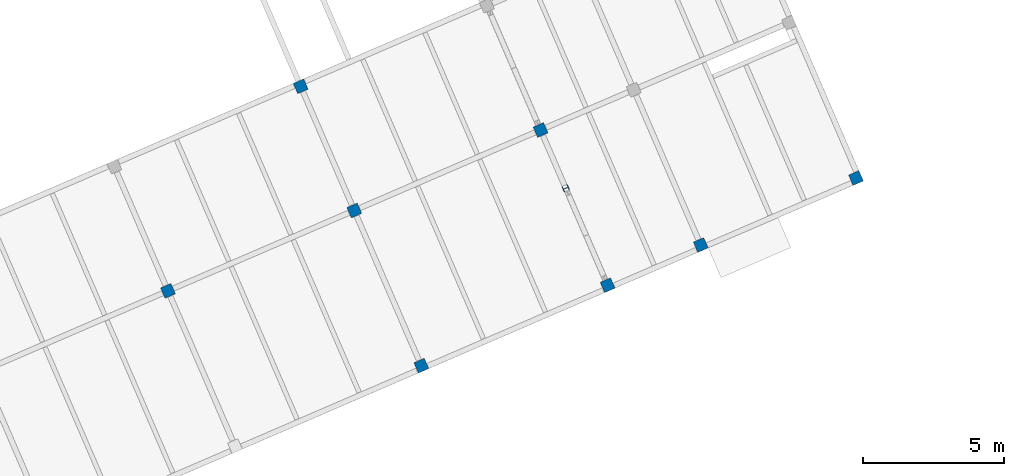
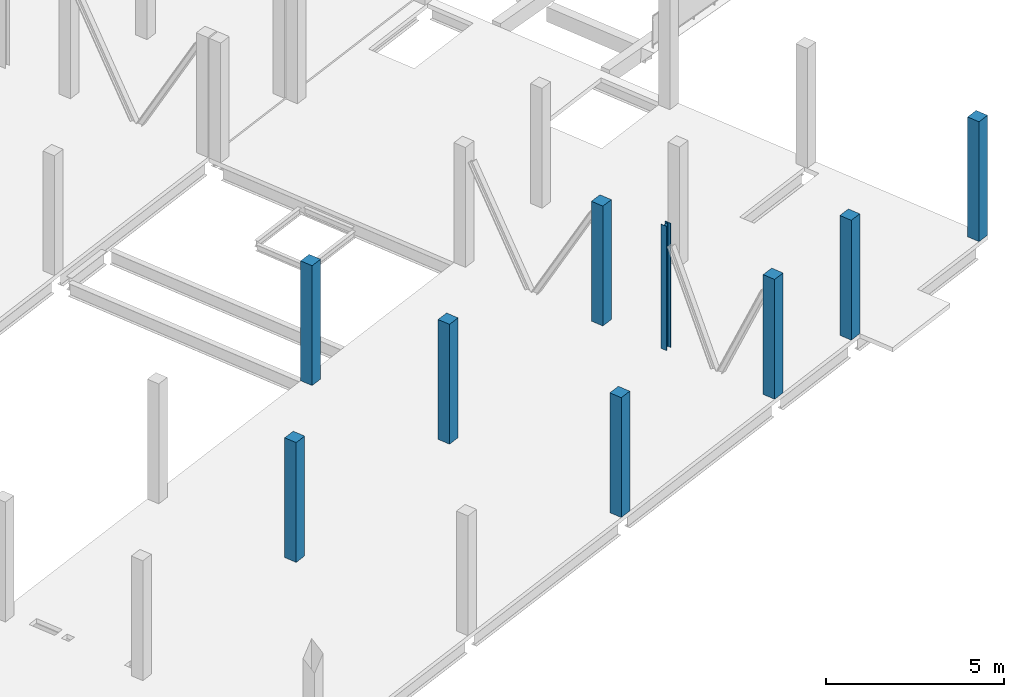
# One storey, part 3 of 24: 9 columns.
"""IFC4 building model written with IfcOpenShell, lengths in metres."""

from ifc_helpers import new_model, entity, si_unit, converted_unit, derived_unit, direction, frame, origin, place, context, subcontext, project, spatial, line, arc, indexed_curve, outline, extrude, source, transform, mapped, material, type_object, type_shapes, element, save


model = new_model("IFC4")

# Units and contexts
model_context = context("Model", 3, precision=1e-05, world=origin(), true_north=direction((6.12323399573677e-17, 1.0)))
body_context = subcontext(model_context, "Body", "Model", "MODEL_VIEW")
ifc_project = project(units=[si_unit("LENGTHUNIT", "METRE"), si_unit("AREAUNIT", "SQUARE_METRE"), si_unit("VOLUMEUNIT", "CUBIC_METRE"), converted_unit("PLANEANGLEUNIT", "DEGREE", entity("IfcPlaneAngleMeasure", 0.0174532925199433), si_unit("PLANEANGLEUNIT", "RADIAN"), dimensions=[0, 0, 0, 0, 0, 0, 0]), si_unit("MASSUNIT", "GRAM", prefix="KILO"), derived_unit("MOMENTOFINERTIAUNIT", [(si_unit("LENGTHUNIT", "METRE"), 4)]), derived_unit("LINEARFORCEUNIT", [(si_unit("MASSUNIT", "GRAM", prefix="KILO"), 1), (si_unit("TIMEUNIT", "SECOND"), -2)]), derived_unit("WARPINGCONSTANTUNIT", [(si_unit("LENGTHUNIT", "METRE"), 6)]), derived_unit("THERMALTRANSMITTANCEUNIT", [(si_unit("MASSUNIT", "GRAM", prefix="KILO"), 1), (si_unit("THERMODYNAMICTEMPERATUREUNIT", "KELVIN"), -1), (si_unit("TIMEUNIT", "SECOND"), -3)]), derived_unit("USERDEFINED", [(si_unit("MASSUNIT", "GRAM", prefix="KILO"), 1), (si_unit("TIMEUNIT", "SECOND"), -2), (si_unit("THERMODYNAMICTEMPERATUREUNIT", "KELVIN"), -1)]), derived_unit("THERMALRESISTANCEUNIT", [(si_unit("MASSUNIT", "GRAM", prefix="KILO"), -1), (si_unit("TIMEUNIT", "SECOND"), 3), (si_unit("THERMODYNAMICTEMPERATUREUNIT", "KELVIN"), 1)])], contexts=[model_context])

# Site, building, storey
site_placement = place(None, origin())
site = spatial("IfcSite", under=ifc_project, at=site_placement, Name="Default", CompositionType="ELEMENT")
building_placement = place(site_placement, frame((12.6613425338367, -82.5732315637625, 317.15), z_axis=(0.0, 0.0, 1.0), x_axis=(-0.396377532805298, 0.918087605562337, 0.0)))
building = spatial("IfcBuilding", under=site, at=building_placement, Name="CESFAM Coyhaique", CompositionType="ELEMENT")
storey_placement = place(building_placement, frame((0.0, 0.0, 4.20000000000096)))
storey = spatial("IfcBuildingStorey", under=building, at=storey_placement, Name="Nivel 2", CompositionType="ELEMENT", Elevation=4.20000000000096)

# Columns
ifc_material_1 = material(Name="HA")
column_type_1 = type_object("IfcColumnType", Name="M_Concrete-Square-Column:400 x 400mm", PredefinedType="COLUMN", material=ifc_material_1)
shared_shape_1 = source(origin(), body_context, "Body", "SweptSolid", [
    extrude(outline(indexed_curve([(-0.2, -0.2), (0.2, -0.2), (0.2, 0.2), (-0.2, 0.2), (-0.2, -0.2)], self_intersect=False)), frame((4.16885341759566, -4.39714959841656, 4.20000000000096), z_axis=(0.0, 0.0, 1.0), x_axis=(-1.0, 0.0, 0.0)), (0.0, 0.0, 1.0), 4.10000000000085),
])
type_shapes(column_type_1, [shared_shape_1])
column_1_placement = place(storey_placement, frame((0.0, 0.0, -4.20000000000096)))
element("IfcColumn", 1, at=column_1_placement, inside=storey, type_object=column_type_1, Name="M_Concrete-Square-Column:400 x 400mm", ObjectType="M_Concrete-Square-Column:400 x 400mm", PredefinedType="COLUMN", context=body_context, shape_type="MappedRepresentation", body=[
    mapped(shared_shape_1, transform((0.0, 0.0, 0.0), scale=1.0)),
])
column_type_2 = type_object("IfcColumnType", Name="M_Concrete-Square-Column:400 x 400mm", PredefinedType="COLUMN", material=ifc_material_1)
shared_shape_2 = source(origin(), body_context, "Body", "SweptSolid", [
    extrude(outline(indexed_curve([(-0.2, -0.2), (0.2, -0.2), (0.2, 0.2), (-0.2, 0.2), (-0.2, -0.2)], self_intersect=False)), frame((4.16885341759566, -11.5971495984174, 4.20000000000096), z_axis=(0.0, 0.0, 1.0), x_axis=(-1.0, 0.0, 0.0)), (0.0, 0.0, 1.0), 4.10000000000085),
])
type_shapes(column_type_2, [shared_shape_2])
column_2_placement = place(storey_placement, frame((0.0, 0.0, -4.20000000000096)))
element("IfcColumn", 2, at=column_2_placement, inside=storey, type_object=column_type_2, Name="M_Concrete-Square-Column:400 x 400mm", ObjectType="M_Concrete-Square-Column:400 x 400mm", PredefinedType="COLUMN", context=body_context, shape_type="MappedRepresentation", body=[
    mapped(shared_shape_2, transform((0.0, 0.0, 0.0), scale=1.0)),
])
column_type_3 = type_object("IfcColumnType", Name="M_Concrete-Square-Column:400 x 400mm", PredefinedType="COLUMN", material=ifc_material_1)
shared_shape_3 = source(origin(), body_context, "Body", "SweptSolid", [
    extrude(outline(indexed_curve([(-0.2, -0.199999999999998), (0.2, -0.199999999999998), (0.2, 0.200000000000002), (-0.2, 0.200000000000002), (-0.2, -0.199999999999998)], self_intersect=False)), frame((4.16885341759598, -21.1971495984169, 4.20000000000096), z_axis=(0.0, 0.0, 1.0), x_axis=(-1.0, 0.0, 0.0)), (0.0, 0.0, 1.0), 4.10000000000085),
])
type_shapes(column_type_3, [shared_shape_3])
column_3_placement = place(storey_placement, frame((0.0, 0.0, -4.20000000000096)))
element("IfcColumn", 3, at=column_3_placement, inside=storey, type_object=column_type_3, Name="M_Concrete-Square-Column:400 x 400mm", ObjectType="M_Concrete-Square-Column:400 x 400mm", PredefinedType="COLUMN", context=body_context, shape_type="MappedRepresentation", body=[
    mapped(shared_shape_3, transform((0.0, 0.0, 0.0), scale=1.0)),
])
column_type_4 = type_object("IfcColumnType", Name="M_Concrete-Square-Column:400 x 400mm", PredefinedType="COLUMN", material=ifc_material_1)
shared_shape_4 = source(origin(), body_context, "Body", "SweptSolid", [
    extrude(outline(indexed_curve([(-0.2, -0.2), (0.2, -0.2), (0.2, 0.2), (-0.2, 0.2), (-0.2, -0.2)], self_intersect=False)), frame((10.1688534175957, 2.8028504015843, 4.20000000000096), z_axis=(0.0, 0.0, 1.0), x_axis=(-1.0, 0.0, 0.0)), (0.0, 0.0, 1.0), 4.10000000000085),
])
type_shapes(column_type_4, [shared_shape_4])
column_4_placement = place(storey_placement, frame((0.0, 0.0, -4.20000000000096)))
element("IfcColumn", 4, at=column_4_placement, inside=storey, type_object=column_type_4, Name="M_Concrete-Square-Column:400 x 400mm", ObjectType="M_Concrete-Square-Column:400 x 400mm", PredefinedType="COLUMN", context=body_context, shape_type="MappedRepresentation", body=[
    mapped(shared_shape_4, transform((0.0, 0.0, 0.0), scale=1.0)),
])
column_type_5 = type_object("IfcColumnType", Name="M_Concrete-Square-Column:400 x 400mm", PredefinedType="COLUMN", material=ifc_material_1)
shared_shape_5 = source(origin(), body_context, "Body", "SweptSolid", [
    extrude(outline(indexed_curve([(-0.2, -0.2), (0.2, -0.2), (0.2, 0.2), (-0.2, 0.2), (-0.2, -0.2)], self_intersect=False)), frame((10.1688534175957, -4.39714959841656, 4.20000000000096), z_axis=(0.0, 0.0, 1.0), x_axis=(-1.0, 0.0, 0.0)), (0.0, 0.0, 1.0), 4.10000000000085),
])
type_shapes(column_type_5, [shared_shape_5])
column_5_placement = place(storey_placement, frame((0.0, 0.0, -4.20000000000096)))
element("IfcColumn", 5, at=column_5_placement, inside=storey, type_object=column_type_5, Name="M_Concrete-Square-Column:400 x 400mm", ObjectType="M_Concrete-Square-Column:400 x 400mm", PredefinedType="COLUMN", context=body_context, shape_type="MappedRepresentation", body=[
    mapped(shared_shape_5, transform((0.0, 0.0, 0.0), scale=1.0)),
])
column_type_6 = type_object("IfcColumnType", Name="M_Concrete-Square-Column:400 x 400mm", PredefinedType="COLUMN", material=ifc_material_1)
shared_shape_6 = source(origin(), body_context, "Body", "SweptSolid", [
    extrude(outline(indexed_curve([(-0.2, -0.2), (0.2, -0.2), (0.2, 0.2), (-0.2, 0.2), (-0.2, -0.2)], self_intersect=False)), frame((10.1688534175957, -11.5971495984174, 4.20000000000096), z_axis=(0.0, 0.0, 1.0), x_axis=(-1.0, 0.0, 0.0)), (0.0, 0.0, 1.0), 4.10000000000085),
])
type_shapes(column_type_6, [shared_shape_6])
column_6_placement = place(storey_placement, frame((0.0, 0.0, -4.20000000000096)))
element("IfcColumn", 6, at=column_6_placement, inside=storey, type_object=column_type_6, Name="M_Concrete-Square-Column:400 x 400mm", ObjectType="M_Concrete-Square-Column:400 x 400mm", PredefinedType="COLUMN", context=body_context, shape_type="MappedRepresentation", body=[
    mapped(shared_shape_6, transform((0.0, 0.0, 0.0), scale=1.0)),
])
column_type_7 = type_object("IfcColumnType", Name="M_Concrete-Square-Column:400 x 400mm", PredefinedType="COLUMN", material=ifc_material_1)
shared_shape_7 = source(origin(), body_context, "Body", "SweptSolid", [
    extrude(outline(indexed_curve([(-0.2, -0.2), (0.2, -0.2), (0.2, 0.2), (-0.2, 0.2), (-0.2, -0.2)], self_intersect=False)), frame((14.9688534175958, -4.39714959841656, 4.20000000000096), z_axis=(0.0, 0.0, 1.0), x_axis=(-1.0, 0.0, 0.0)), (0.0, 0.0, 1.0), 4.10000000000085),
])
type_shapes(column_type_7, [shared_shape_7])
column_7_placement = place(storey_placement, frame((0.0, 0.0, -4.20000000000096)))
element("IfcColumn", 7, at=column_7_placement, inside=storey, type_object=column_type_7, Name="M_Concrete-Square-Column:400 x 400mm", ObjectType="M_Concrete-Square-Column:400 x 400mm", PredefinedType="COLUMN", context=body_context, shape_type="MappedRepresentation", body=[
    mapped(shared_shape_7, transform((0.0, 0.0, 0.0), scale=1.0)),
])
column_type_8 = type_object("IfcColumnType", Name="M_Concrete-Square-Column:400 x 400mm", PredefinedType="COLUMN", material=ifc_material_1)
shared_shape_8 = source(origin(), body_context, "Body", "SweptSolid", [
    extrude(outline(indexed_curve([(-0.2, -0.2), (0.2, -0.2), (0.2, 0.2), (-0.2, 0.2), (-0.2, -0.2)], self_intersect=False)), frame((4.16885341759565, -15.1971495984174, 4.20000000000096), z_axis=(0.0, 0.0, 1.0), x_axis=(-1.0, 0.0, 0.0)), (0.0, 0.0, 1.0), 4.10000000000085),
])
type_shapes(column_type_8, [shared_shape_8])
column_8_placement = place(storey_placement, frame((0.0, 0.0, -4.20000000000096)))
element("IfcColumn", 8, at=column_8_placement, inside=storey, type_object=column_type_8, Name="M_Concrete-Square-Column:400 x 400mm", ObjectType="M_Concrete-Square-Column:400 x 400mm", PredefinedType="COLUMN", context=body_context, shape_type="MappedRepresentation", body=[
    mapped(shared_shape_8, transform((0.0, 0.0, 0.0), scale=1.0)),
])
ifc_material_2 = material(Name="Steel, 45-345", Category="Metal")
column_type_9 = type_object("IfcColumnType", Name="M_W Shapes-Column:HEA 200", PredefinedType="COLUMN", material=ifc_material_2)
shared_shape_9 = source(origin(), body_context, "Body", "SweptSolid", [
    extrude(outline(indexed_curve([(-0.0999999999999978, -0.0999999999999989), (0.100000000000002, -0.0999999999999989), (0.100000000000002, -0.0889999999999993), (0.0163850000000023, -0.0889999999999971), (0.00740474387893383, -0.0852802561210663), (0.00368500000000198, -0.0762999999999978), (0.00368500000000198, 0.0763000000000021), (0.00740474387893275, 0.0852802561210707), (0.0163850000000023, 0.0890000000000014), (0.100000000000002, 0.0890000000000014), (0.100000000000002, 0.100000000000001), (-0.0999999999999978, 0.100000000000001), (-0.0999999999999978, 0.0890000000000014), (-0.016384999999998, 0.0890000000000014), (-0.00740474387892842, 0.0852802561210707), (-0.00368499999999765, 0.0763000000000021), (-0.00368499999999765, -0.0762999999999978), (-0.00740474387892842, -0.0852802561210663), (-0.016384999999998, -0.0889999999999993), (-0.0999999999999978, -0.0889999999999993)], segments=[line(1, 2, 3, 4), arc(4, 5, 6), line(6, 7), arc(7, 8, 9), line(9, 10, 11, 12, 13, 14), arc(14, 15, 16), line(16, 17), arc(17, 18, 19), line(19, 20, 1)], self_intersect=False)), frame((7.91885341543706, -11.5971495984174, 4.20000000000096), z_axis=(0.0, 0.0, 1.0), x_axis=(-1.0, 0.0, 0.0)), (0.0, 0.0, 1.0), 4.25000000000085),
])
type_shapes(column_type_9, [shared_shape_9])
column_9_placement = place(storey_placement, frame((0.0, 0.0, -4.20000000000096)))
element("IfcColumn", 9, at=column_9_placement, inside=storey, type_object=column_type_9, Name="M_W Shapes-Column:HEA 200", ObjectType="M_W Shapes-Column:HEA 200", PredefinedType="COLUMN", context=body_context, shape_type="MappedRepresentation", body=[
    mapped(shared_shape_9, transform((0.0, 0.0, 0.0), scale=1.0)),
])

save(model, "model.ifc")
